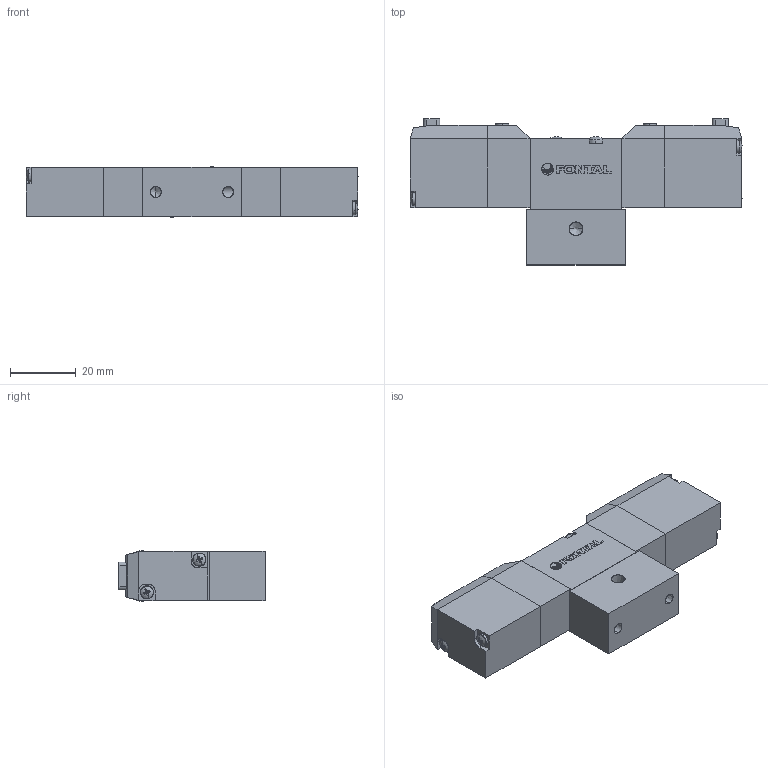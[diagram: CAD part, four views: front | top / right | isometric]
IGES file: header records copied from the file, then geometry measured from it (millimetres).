
Start section: SolidWorks IGES file using analytic representation for surfaces
Global section: file name: D:\Custom\3D繪製\PC\PC5\PCD245#-M5-#-L-#.IGS,1; native system: 5HSolidWorks 2014; preprocessor: SolidWorks 2014; author: Chieh_Lu; date: 150729.231830; units: millimetre
Bounding box: 101.14 x 44.5 x 15.4 mm (x, y, z)
Surface area: 17085.5 mm2 (no closed solid volume)
Topology: 0 solids, 0 shells, 524 faces, 4842 edges, 4816 vertices
Faces by surface type: bspline 321, revolution 203
